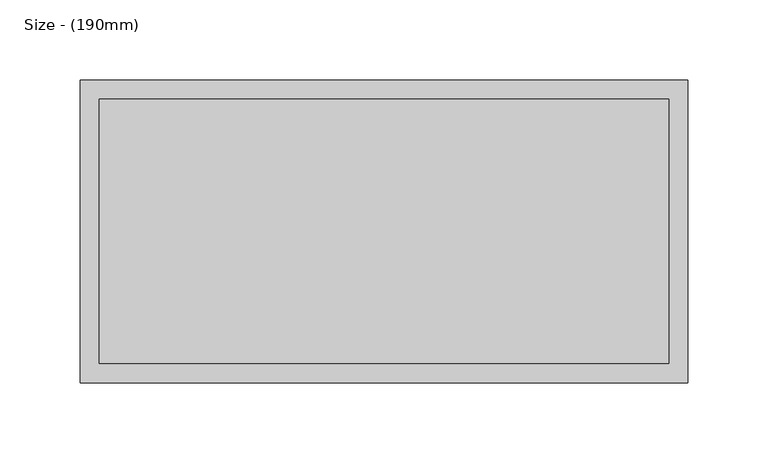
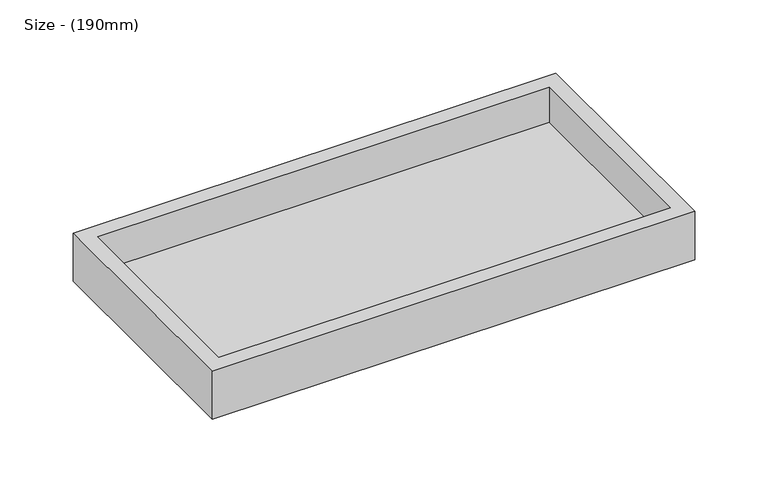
"""IFC4 building model written with IfcOpenShell, lengths in millimetres: proxy geometry, efg_create_storage_wooden_tray : Size - (190mm)."""

from ifc_helpers import new_model, si_unit, origin, place, context, project, spatial, faceted_brep, source, transform, mapped, element, save


def size_190mm_53cb0618(model_context):
    return source(origin(), model_context, "Body", "Brep", [
        faceted_brep([(-189.5, -94.5000076, 4.9e-06), (189.5000305, -94.5000076, 4.9e-06), (189.5000305, -94.5000076, 40.0000076), (-189.5, -94.5000076, 40.0000076), (189.5000305, 94.5, 4.9e-06), (189.5000305, 94.5, 40.0000076), (-189.5, 94.5, 4.9e-06), (-189.5, 94.5, 40.0000076), (-177.499989, 82.5000036, 4.9e-06), (-177.499989, -82.5000063, 4.9e-06), (177.5000072, -82.5000063, 4.9e-06), (177.5000072, 82.5000036, 4.9e-06), (-177.499989, -82.5000063, 40.0000076), (-177.499989, 82.4999975, 40.0000076), (177.5000193, 82.4999975, 40.0000076), (177.5000193, -82.5000063, 40.0000076), (-177.499989, 82.5000036, 5.0000041), (-177.499989, -82.5000063, 5.0000041), (177.5000072, 82.5000036, 5.0000041), (177.5000072, -82.5000063, 5.0000041), (-177.499989, -82.5000063, 11.0000044), (-177.499989, 82.4999975, 11.0000044), (177.5000193, 82.4999975, 11.0000044), (177.5000193, -82.5000063, 11.0000044)], [[[0, 1, 2, 3]], [[1, 4, 5, 2]], [[4, 6, 7, 5]], [[6, 0, 3, 7]], [[0, 6, 4, 1], [8, 9, 10, 11]], [[3, 2, 5, 7], [12, 13, 14, 15]], [[8, 16, 17, 9]], [[11, 18, 16, 8]], [[10, 19, 18, 11]], [[9, 17, 19, 10]], [[17, 16, 18, 19]], [[12, 20, 21, 13]], [[13, 21, 22, 14]], [[14, 22, 23, 15]], [[15, 23, 20, 12]], [[20, 23, 22, 21]]]),
    ])


if __name__ == "__main__":
    model = new_model("IFC4")
    model_context = context("Model", 3, world=origin())
    ifc_project = project(units=[si_unit("LENGTHUNIT", "METRE", prefix="MILLI")], contexts=[model_context])
    site = spatial("IfcSite", under=ifc_project)
    building = spatial("IfcBuilding", under=site)
    placement = place(None, origin())
    size_190mm_shape = size_190mm_53cb0618(model_context)
    element("IfcBuildingElementProxy", 1, Name="efg_create_storage_wooden_tray : Size - (190mm)", ObjectType="efg_create_storage_wooden_tray : Size - (190mm)", at=placement, inside=building, context=model_context, shape_type="MappedRepresentation", body=[
        mapped(size_190mm_shape, transform((0.0, 0.0, 0.0), x_axis=(1.0, 0.0, 0.0), y_axis=(0.0, 1.0, 0.0), z_axis=(0.0, 0.0, 1.0))),
    ])
    save(model, "model.ifc")
